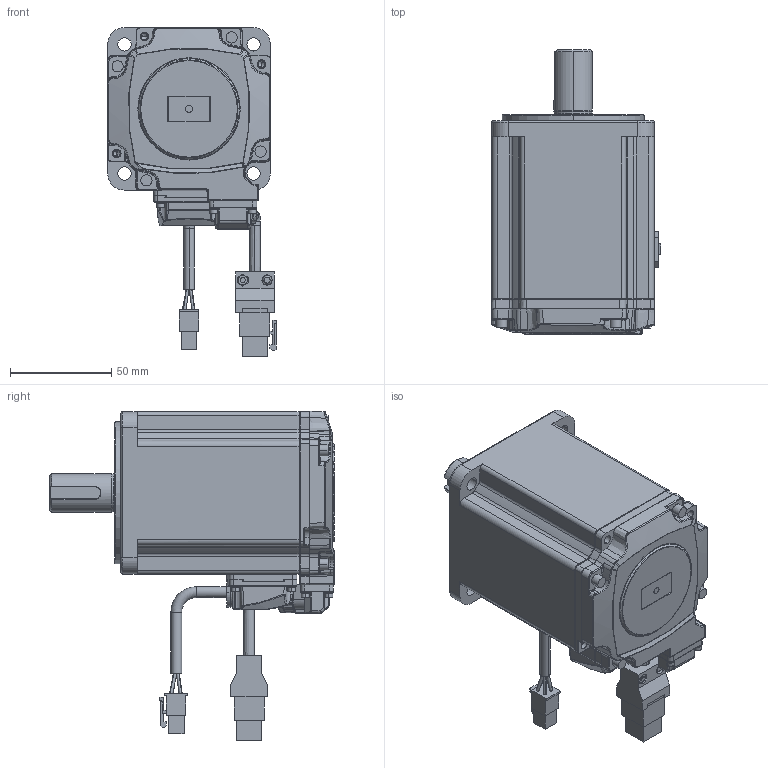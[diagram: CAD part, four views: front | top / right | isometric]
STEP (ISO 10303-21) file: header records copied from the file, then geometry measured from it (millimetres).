
FILE_DESCRIPTION((''),'2;1');
FILE_NAME('ECM-B3M-C20807RS1-201_SW0001','2019-04-24T',('MIO.CHEN'),(''),'CREO PARAMETRIC BY PTC INC, 2015080','CREO PARAMETRIC BY PTC INC, 2015080','');
FILE_SCHEMA(('CONFIG_CONTROL_DESIGN'));
Products named in the file (1): ECM-B3M-C20807RS1-201_SW0001
Bounding box: 83.41 x 140.15 x 162.4 mm (x, y, z)
Volume: 619498.8 mm3; surface area: 76102.4 mm2
Topology: 1 solids, 21 shells, 1535 faces, 3678 edges, 2221 vertices
Faces by surface type: plane 518, cylinder 462, bspline 229, torus 174, cone 126, sphere 26
Entity records: 59406 total; most frequent: CARTESIAN_POINT 25712, ORIENTED_EDGE 7296, DIRECTION 6590, EDGE_CURVE 3648, AXIS2_PLACEMENT_3D 2504, VERTEX_POINT 2221, EDGE_LOOP 1629, VECTOR 1582
